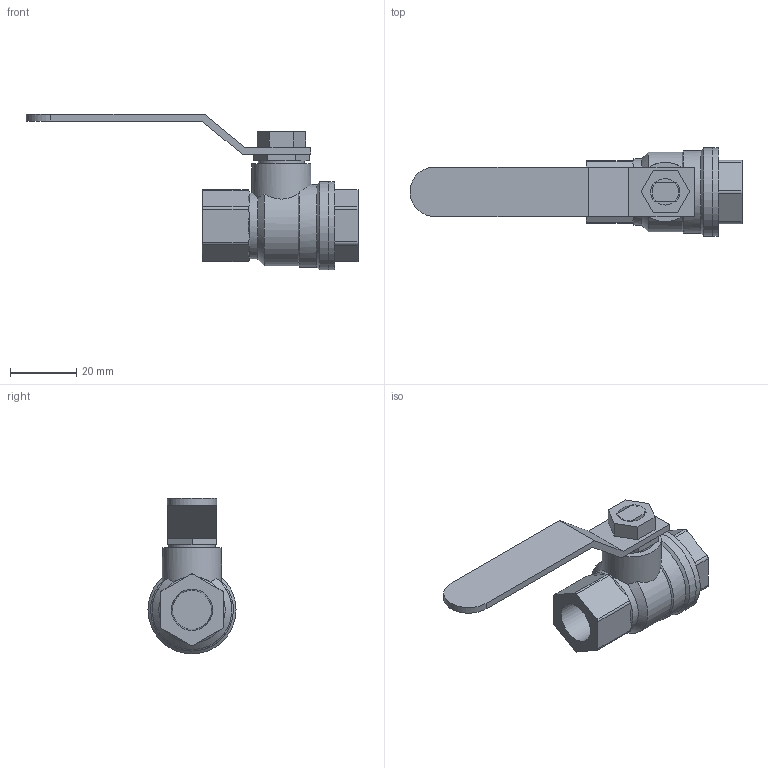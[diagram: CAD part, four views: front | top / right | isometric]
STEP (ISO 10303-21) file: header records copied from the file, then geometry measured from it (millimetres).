
FILE_DESCRIPTION((' '),'2;1');
FILE_NAME('N:\Technical Support\Private\Jomar Valve CAD\Ball Valves\Brass\T-100NE[G]\.25 T-100NE (100-701)FusionCopy.stp.step','2016-07-28T09:40:10',(' '),(' '),' ','ACIS',' ');
FILE_SCHEMA(('CONFIG_CONTROL_DESIGN'));
Length unit declared in the file: inch
Products named in the file (7): N:\Technical Support\Private\Jomar Valve CAD\Ball Valves\Brass\T-100NE[G]\.25 T-100NE (100-701)FusionCopy.stp.step; Body1; Body2; Body3; Body4; Body5; Body6
Assembly tree (6 placements, depth 2):
  N:\Technical Support\Private\Jomar Valve CAD\Ball Valves\Brass\T-100NE[G]\.25 T-100NE (100-701)FusionCopy.stp.step
    Body1
    Body2
    Body3
    Body4
    Body5
    Body6
Bounding box: 100.49 x 26.67 x 47.14 mm (x, y, z)
Volume: 22210.4 mm3; surface area: 10830.5 mm2
Topology: 6 solids, 6 shells, 104 faces, 257 edges, 170 vertices
Faces by surface type: plane 47, cylinder 24, cone 17, bspline 16
Full cylindrical faces by diameter (mm): 8.001 x1, 9.093 x1, 9.398 x1, 13.97 x1, 17.907 x1, 20.117 x1, 25.019 x1, 26.67 x2
Entity records: 4089 total; most frequent: CARTESIAN_POINT 813, ORIENTED_EDGE 474, DIRECTION 470, EDGE_CURVE 237, AXIS2_PLACEMENT_3D 171, VERTEX_POINT 163, EDGE_LOOP 130, VECTOR 128
